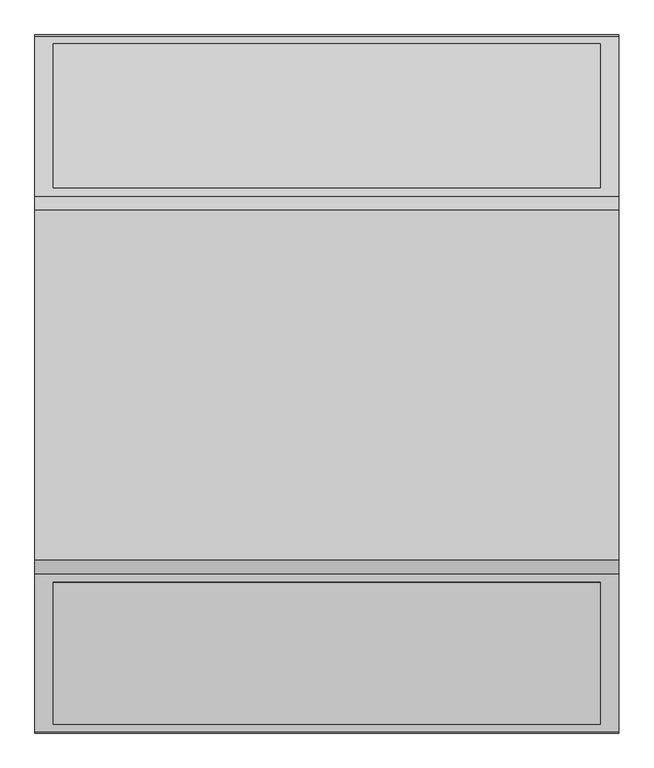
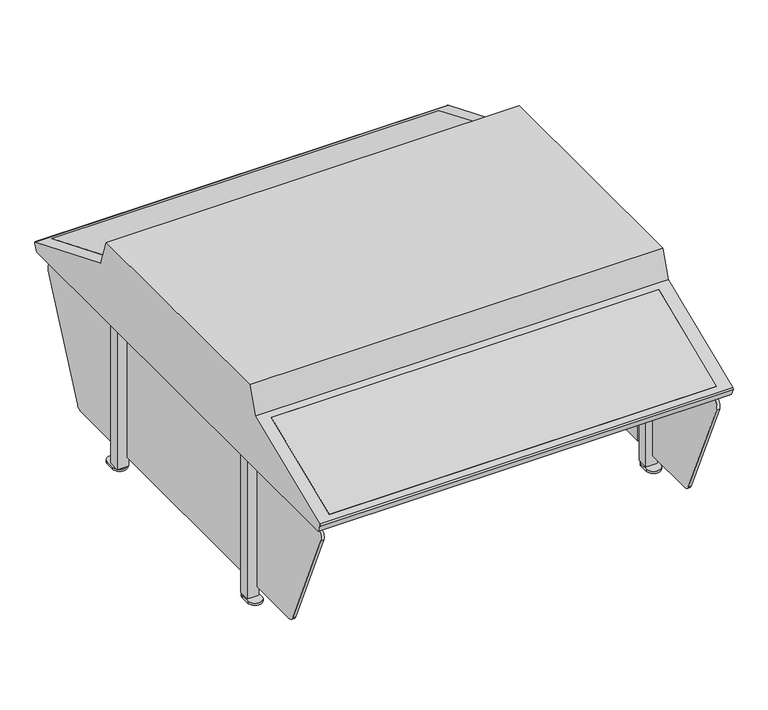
"""IFC4 building model written with IfcOpenShell, lengths in millimetres: proxy geometry, QF_AtlasMetal_OSDC_cat : QF_AtlasMetal_OSDC_cat."""

from ifc_helpers import new_model, si_unit, point, frame, frame_2d, origin, origin_with_axes, place, context, project, spatial, polyline, circle_curve, trimmed, segment, composite_curve, outline, extrude, source, transform, mapped, element, save
from ifc_brep_helpers import plane_surface, cylinder_surface, advanced_brep


def specialty_equipment_6575f109(model_context):
    return source(origin(), model_context, "Body", "SolidModel", [
        extrude(outline(composite_curve([segment(polyline([(-880.5035504, 314.325), (-652.4625, 314.325), (-652.4625, 38.1), (-772.9345504, 38.1)]), True, "CONTINUOUS"), segment(trimmed(circle_curve(frame_2d((-772.9345504, 53.975)), 15.875), [point((-772.9345504, 38.1))], [point((-787.4651765, 47.5815245))], False, "CARTESIAN"), True, "CONTINUOUS"), segment(polyline([(-787.4651765, 47.5815245), (-895.0341765, 292.0565245)]), True, "CONTINUOUS"), segment(trimmed(circle_curve(frame_2d((-880.5035504, 298.45)), 15.875), [point((-895.0341765, 292.0565245))], [point((-880.5035504, 314.325))], False, "CARTESIAN"), True, "CONTINUOUS")], self_intersect=False)), frame((490.4555745, 0.0, 0.0), z_axis=(1.0, 0.0, 0.0), x_axis=(0.0, 1.0, 0.0)), (0.0, 0.0, 1.0), 6.35),
        extrude(outline(composite_curve([segment(trimmed(circle_curve(frame_2d((128.0275287, 298.45)), 15.875), [point((128.0275287, 314.325))], [point((142.488074, 291.8995608))], False, "CARTESIAN"), True, "CONTINUOUS"), segment(polyline([(142.488074, 291.8995608), (31.744074, 47.4245608)]), True, "CONTINUOUS"), segment(trimmed(circle_curve(frame_2d((17.2835287, 53.975)), 15.875), [point((31.744074, 47.4245608))], [point((17.2835287, 38.1))], False, "CARTESIAN"), True, "CONTINUOUS"), segment(polyline([(17.2835287, 38.1), (-100.0125, 38.1), (-100.0125, 314.325), (128.0275287, 314.325)]), True, "CONTINUOUS")], self_intersect=False)), frame((490.4555745, 0.0, 0.0), z_axis=(1.0, 0.0, 0.0), x_axis=(0.0, 1.0, 0.0)), (0.0, 0.0, 1.0), 6.35),
        extrude(outline(composite_curve([segment(polyline([(-652.4625, 38.1), (-772.9345504, 38.1)]), True, "CONTINUOUS"), segment(trimmed(circle_curve(frame_2d((-772.9345504, 53.975)), 15.875), [point((-772.9345504, 38.1))], [point((-787.4651765, 47.5815245))], False, "CARTESIAN"), True, "CONTINUOUS"), segment(polyline([(-787.4651765, 47.5815245), (-895.0341765, 292.0565245)]), True, "CONTINUOUS"), segment(trimmed(circle_curve(frame_2d((-880.5035504, 298.45)), 15.875), [point((-895.0341765, 292.0565245))], [point((-880.5035504, 314.325))], False, "CARTESIAN"), True, "CONTINUOUS"), segment(polyline([(-880.5035504, 314.325), (-652.4625, 314.325), (-652.4625, 38.1)]), True, "CONTINUOUS")], self_intersect=False)), frame((-379.4944255, 0.0, 0.0), z_axis=(1.0, 0.0, 0.0), x_axis=(0.0, 1.0, 0.0)), (0.0, 0.0, 1.0), 6.35),
        extrude(outline(composite_curve([segment(polyline([(-100.0125, 38.1), (-100.0125, 314.325), (128.0275287, 314.325)]), True, "CONTINUOUS"), segment(trimmed(circle_curve(frame_2d((128.0275287, 298.45)), 15.875), [point((128.0275287, 314.325))], [point((142.488074, 291.8995608))], False, "CARTESIAN"), True, "CONTINUOUS"), segment(polyline([(142.488074, 291.8995608), (31.744074, 47.4245608)]), True, "CONTINUOUS"), segment(trimmed(circle_curve(frame_2d((17.2835287, 53.975)), 15.875), [point((31.744074, 47.4245608))], [point((17.2835287, 38.1))], False, "CARTESIAN"), True, "CONTINUOUS"), segment(polyline([(17.2835287, 38.1), (-100.0125, 38.1)]), True, "CONTINUOUS")], self_intersect=False)), frame((-379.4944255, 0.0, 0.0), z_axis=(1.0, 0.0, 0.0), x_axis=(0.0, 1.0, 0.0)), (0.0, 0.0, 1.0), 6.35),
        extrude(outline(polyline([(496.8055745, -157.1625), (496.8055745, -595.3125), (490.4555745, -595.3125), (490.4555745, -157.1625), (496.8055745, -157.1625)])), frame((0.0, 0.0, 38.1), z_axis=(0.0, 0.0, 1.0), x_axis=(1.0, 0.0, 0.0)), (0.0, 0.0, 1.0), 276.225),
        extrude(outline(polyline([(-373.1444255, -157.1625), (-373.1444255, -595.3125), (-379.4944255, -595.3125), (-379.4944255, -157.1625), (-373.1444255, -157.1625)])), frame((0.0, 0.0, 38.1), z_axis=(0.0, 0.0, 1.0), x_axis=(1.0, 0.0, 0.0)), (0.0, 0.0, 1.0), 276.225),
        extrude(outline(polyline([(0.0, -239.1278346), (0.0, 0.0), (850.9, 0.0), (850.9, -239.1278346), (0.0, -239.1278346)])), frame((484.1055745, -900.6055322, 343.6355938), z_axis=(0.0, -0.383537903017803, 0.9235251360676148), x_axis=(-1.0, 0.0, 0.0)), (0.0, 0.0, 1.0), 12.7),
        extrude(outline(polyline([(0.0, -242.5657486), (0.0, 0.0), (850.9, 0.0), (850.9, -242.5657486), (0.0, -242.5657486)])), frame((484.1055745, -75.8850338, 436.6687524), z_axis=(0.0, 0.38353790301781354, 0.9235251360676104), x_axis=(-1.0, 0.0, 0.0)), (0.0, 0.0, 1.0), 12.7),
        advanced_brep(
        [(512.6805745, 159.3423057, 330.2), (512.6805745, 166.4186252, 346.2825443), (512.6805745, 164.7302328, 350.4934317), (512.6805745, -84.0580207, 452.4960611), (512.6805745, -104.9655, 512.7625), (512.6805745, -650.6845, 512.7625), (512.6805745, -671.5919793, 452.4960611), (512.6805745, -917.2052328, 350.4934317), (512.6805745, -918.8936252, 346.2825443), (512.6805745, -911.8173057, 330.2), (-395.3694255, -911.8173057, 330.2), (-395.3694255, -918.8936252, 346.2825443), (-395.3694255, -917.2052328, 350.4934317), (-395.3694255, -671.5919793, 452.4960611), (-395.3694255, -650.6845, 512.7625), (-395.3694255, -104.9655, 512.7625), (-395.3694255, -84.0580207, 452.4960611), (-395.3694255, 164.7302328, 350.4934317), (-395.3694255, 166.4186252, 346.2825443), (-395.3694255, 159.3423057, 330.2), (484.1055745, 142.5507605, 330.2), (-366.7944255, 142.5507605, 330.2), (-366.7944255, -895.0257605, 330.2), (484.1055745, -895.0257605, 330.2), (484.1055745, -684.6358976, 447.0789513), (484.1055745, -905.4764636, 355.3643631), (-366.7944255, -905.4764636, 355.3643631), (-366.7944255, -684.6358976, 447.0789513), (484.1055745, -679.7649662, 435.3501821), (484.1055745, -661.4604519, 442.9520056), (484.1055745, -641.6478248, 500.0625), (484.1055745, -110.4461752, 500.0625), (484.1055745, -94.1496099, 444.2539896), (484.1055745, -74.5631971, 436.1197966), (484.1055745, -71.0141024, 445.1097561), (484.1055745, 62.9674129, 392.2159611), (484.1055745, 152.5360472, 355.4930206), (-366.7944255, 152.5360472, 355.4930206), (-366.7944255, 62.9674129, 392.2159611), (-366.7944255, -71.0141024, 445.1097561), (-366.7944255, -74.5631971, 436.1197966), (-366.7944255, -94.1496099, 444.2539896), (-366.7944255, -110.4461752, 500.0625), (-366.7944255, -641.6478248, 500.0625), (-366.7944255, -661.4604519, 442.9520056), (-366.7944255, -679.7649662, 435.3501821)],
        [
            (0, 1),
            (1, 2, circle_curve(frame((512.6805745, 163.5125, 347.5612394), z_axis=(1.0, 0.0, 0.0), x_axis=(0.0, 1.0, 0.0)), 3.175)),
            (2, 3),
            (3, 4),
            (4, 5),
            (5, 6),
            (6, 7),
            (7, 8, circle_curve(frame((512.6805745, -915.9875, 347.5612394), z_axis=(1.0, 0.0, 0.0), x_axis=(0.0, 1.0, 0.0)), 3.175)),
            (8, 9),
            (9, 0),
            (10, 11),
            (11, 12, circle_curve(frame((-395.3694255, -915.9875, 347.5612394), z_axis=(-1.0, 0.0, 0.0), x_axis=(0.0, 1.0, 0.0)), 3.175)),
            (12, 13),
            (13, 14),
            (14, 15),
            (15, 16),
            (16, 17),
            (17, 18, circle_curve(frame((-395.3694255, 163.5125, 347.5612394), z_axis=(-1.0, 0.0, 0.0), x_axis=(0.0, 1.0, 0.0)), 3.175)),
            (18, 19),
            (19, 10),
            (19, 0),
            (9, 10),
            (20, 21),
            (21, 22),
            (22, 23),
            (23, 20),
            (4, 15),
            (14, 5),
            (13, 6),
            (12, 7),
            (24, 25),
            (25, 26),
            (26, 27),
            (27, 24),
            (11, 8),
            (24, 28),
            (28, 29),
            (29, 30),
            (30, 31),
            (31, 32),
            (32, 33),
            (33, 34),
            (34, 35),
            (35, 36),
            (36, 20),
            (23, 25),
            (21, 37),
            (37, 38),
            (38, 39),
            (39, 40),
            (40, 41),
            (41, 42),
            (42, 43),
            (43, 44),
            (44, 45),
            (45, 27),
            (26, 22),
            (45, 28),
            (18, 1),
            (17, 2),
            (16, 3),
            (35, 38),
            (37, 36),
            (34, 39),
            (33, 40),
            (44, 29),
            (43, 30),
            (42, 31),
            (41, 32),
        ],
        [
            plane_surface(frame((512.6805745, -52.3875, 330.2), z_axis=(1.0, 0.0, 0.0), x_axis=(0.0, 1.0, 0.0))),
            plane_surface(frame((-395.3694255, -52.3875, 330.2), z_axis=(-1.0, 0.0, 0.0), x_axis=(0.0, -1.0, 0.0))),
            plane_surface(frame((512.6805745, -911.8173057, 330.2), z_axis=(0.0, 0.0, -1.0), x_axis=(-1.0, 0.0, 0.0))),
            plane_surface(frame((512.6805745, -104.9655, 512.7625), z_axis=(0.0, 0.0, 1.0), x_axis=(-1.0, 0.0, 0.0))),
            plane_surface(frame((512.6805745, -650.6845, 512.7625), z_axis=(0.0, -0.9447628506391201, 0.3277547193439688), x_axis=(-1.0, 0.0, 0.0))),
            plane_surface(frame((512.6805745, -671.5919793, 452.4960611), z_axis=(0.0, -0.3835379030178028, 0.9235251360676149), x_axis=(-1.0, 0.0, 0.0))),
            cylinder_surface(frame((-395.3694255, -915.9875, 347.5612394), z_axis=(1.0, 0.0, 0.0), x_axis=(0.0, 1.0, 0.0)), 3.175),
            plane_surface(frame((512.6805745, -918.8936252, 346.2825443), z_axis=(0.0, -0.9153150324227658, -0.40273861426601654), x_axis=(-1.0, 0.0, 0.0))),
            plane_surface(frame((484.1055745, -905.4764636, 355.3643631), z_axis=(-1.0000000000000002, 0.0, 0.0), x_axis=(0.0, 0.38353790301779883, -0.9235251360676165))),
            plane_surface(frame((-366.7944255, -905.4764636, 355.3643631), z_axis=(1.0000000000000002, 0.0, 0.0), x_axis=(0.0, -0.38353790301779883, 0.9235251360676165))),
            plane_surface(frame((484.1055745, -636.0963331, 330.2), z_axis=(0.0, -0.9235251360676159, -0.38353790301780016), x_axis=(-1.0, 0.0, 0.0))),
            plane_surface(frame((512.6805745, 159.3423057, 330.2), z_axis=(0.0, 0.9153150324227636, -0.40273861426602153), x_axis=(-1.0, 0.0, 0.0))),
            cylinder_surface(frame((-395.3694255, 163.5125, 347.5612394), z_axis=(1.0, 0.0, 0.0), x_axis=(0.0, 1.0, 0.0)), 3.175),
            plane_surface(frame((512.6805745, 164.7302328, 350.4934317), z_axis=(0.0, 0.3793515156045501, 0.9252526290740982), x_axis=(-1.0, 0.0, 0.0))),
            plane_surface(frame((512.6805745, -84.0580207, 452.4960611), z_axis=(0.0, 0.9447628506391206, 0.3277547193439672), x_axis=(-1.0, 0.0, 0.0))),
            plane_surface(frame((484.1055745, 153.0014636, 356.6719338), z_axis=(0.0, -0.36720470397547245, -0.9301401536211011), x_axis=(-1.0, 0.0, 0.0))),
            plane_surface(frame((484.1055745, -71.0141024, 445.1097561), z_axis=(0.0, 0.9301401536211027, -0.36720470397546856), x_axis=(-1.0, 0.0, 0.0))),
            plane_surface(frame((512.6805745, -895.0257605, 330.2), z_axis=(0.0, 0.9235251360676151, 0.3835379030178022), x_axis=(-1.0, 0.0, 0.0))),
            plane_surface(frame((512.6805745, -900.6055322, 343.6355938), z_axis=(0.0, 0.3835379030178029, -0.9235251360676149), x_axis=(-1.0, 0.0, 0.0))),
            plane_surface(frame((512.6805745, -661.4604519, 442.9520056), z_axis=(0.0, 0.94476285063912, -0.32775471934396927), x_axis=(-1.0, 0.0, 0.0))),
            plane_surface(frame((512.6805745, -641.6478248, 500.0625), z_axis=(0.0, 0.0, -1.0), x_axis=(-1.0, 0.0, 0.0))),
            plane_surface(frame((512.6805745, -110.4461752, 500.0625), z_axis=(0.0, -0.9599117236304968, -0.2803024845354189), x_axis=(-1.0, 0.0, 0.0))),
            plane_surface(frame((512.6805745, -94.1496099, 444.2539896), z_axis=(0.0, -0.3835379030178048, -0.9235251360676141), x_axis=(-1.0, 0.0, 0.0))),
            plane_surface(frame((512.6805745, 147.8937438, 343.7339316), z_axis=(0.0, -0.9301401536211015, 0.36720470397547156), x_axis=(-1.0, 0.0, 0.0))),
        ],
        [
            (0, [[1, 2, 3, 4, 5, 6, 7, 8, 9, 10]]),
            (1, [[11, 12, 13, 14, 15, 16, 17, 18, 19, 20]]),
            (2, [[-20, 21, -10, 22], [23, 24, 25, 26]]),
            (3, [[-5, 27, -15, 28]]),
            (4, [[-6, -28, -14, 29]]),
            (5, [[-7, -29, -13, 30], [31, 32, 33, 34]]),
            (6, [[-8, -30, -12, 35]]),
            (7, [[-9, -35, -11, -22]]),
            (8, [[36, 37, 38, 39, 40, 41, 42, 43, 44, 45, -26, 46, -31]]),
            (9, [[-24, 47, 48, 49, 50, 51, 52, 53, 54, 55, 56, -33, 57]]),
            (10, [[-36, -34, -56, 58]]),
            (11, [[-1, -21, -19, 59]]),
            (12, [[-2, -59, -18, 60]]),
            (13, [[-3, -60, -17, 61], [-44, 62, -48, 63]]),
            (14, [[-4, -61, -16, -27]]),
            (15, [[64, -49, -62, -43]]),
            (16, [[-64, -42, 65, -50]]),
            (17, [[-57, -32, -46, -25]]),
            (18, [[-58, -55, 66, -37]]),
            (19, [[-38, -66, -54, 67]]),
            (20, [[-39, -67, -53, 68]]),
            (21, [[-40, -68, -52, 69]]),
            (22, [[-65, -41, -69, -51]]),
            (23, [[-47, -23, -45, -63]]),
        ],
    ),
        extrude(outline(polyline([(-366.7944255, -141.2875), (-392.1944255, -141.2875), (-392.1944255, -115.8875), (-366.7944255, -115.8875), (-366.7944255, -141.2875)])), frame((0.0, 0.0, 4.7625), z_axis=(0.0, 0.0, 1.0), x_axis=(1.0, 0.0, 0.0)), (0.0, 0.0, 1.0), 325.4375),
        extrude(outline(polyline([(-366.7944255, -611.1875), (-366.7944255, -636.5875), (-392.1944255, -636.5875), (-392.1944255, -611.1875), (-366.7944255, -611.1875)])), frame((0.0, 0.0, 4.7625), z_axis=(0.0, 0.0, 1.0), x_axis=(1.0, 0.0, 0.0)), (0.0, 0.0, 1.0), 325.4375),
        extrude(outline(polyline([(484.1055745, -141.2875), (484.1055745, -115.8875), (509.5055745, -115.8875), (509.5055745, -141.2875), (484.1055745, -141.2875)])), frame((0.0, 0.0, 4.7625), z_axis=(0.0, 0.0, 1.0), x_axis=(1.0, 0.0, 0.0)), (0.0, 0.0, 1.0), 325.4375),
        extrude(outline(polyline([(509.5055745, -611.1875), (509.5055745, -636.5875), (484.1055745, -636.5875), (484.1055745, -611.1875), (509.5055745, -611.1875)])), frame((0.0, 0.0, 4.7625), z_axis=(0.0, 0.0, 1.0), x_axis=(1.0, 0.0, 0.0)), (0.0, 0.0, 1.0), 325.4375),
        extrude(outline(composite_curve([segment(trimmed(circle_curve(frame_2d((-379.4944255, -109.5375)), 15.875), [point((-395.3694255, -109.5375))], [point((-363.6194255, -109.5375))], False, "CARTESIAN"), True, "CONTINUOUS"), segment(polyline([(-363.6194255, -109.5375), (-363.6194255, -128.5875)]), True, "CONTINUOUS"), segment(trimmed(circle_curve(frame_2d((-379.4944255, -128.5875)), 15.875), [point((-363.6194255, -128.5875))], [point((-395.3694255, -128.5875))], False, "CARTESIAN"), True, "CONTINUOUS"), segment(polyline([(-395.3694255, -128.5875), (-395.3694255, -109.5375)]), True, "CONTINUOUS")], self_intersect=False)), origin_with_axes(), (0.0, 0.0, 1.0), 4.7625),
        extrude(outline(composite_curve([segment(trimmed(circle_curve(frame_2d((496.8055745, -109.5375)), 15.875), [point((480.9305745, -109.5375))], [point((512.6805745, -109.5375))], False, "CARTESIAN"), True, "CONTINUOUS"), segment(polyline([(512.6805745, -109.5375), (512.6805745, -128.5875)]), True, "CONTINUOUS"), segment(trimmed(circle_curve(frame_2d((496.8055745, -128.5875)), 15.875), [point((512.6805745, -128.5875))], [point((480.9305745, -128.5875))], False, "CARTESIAN"), True, "CONTINUOUS"), segment(polyline([(480.9305745, -128.5875), (480.9305745, -109.5375)]), True, "CONTINUOUS")], self_intersect=False)), origin_with_axes(), (0.0, 0.0, 1.0), 4.7625),
        extrude(outline(composite_curve([segment(trimmed(circle_curve(frame_2d((-379.4944255, -623.8875)), 15.875), [point((-395.3694255, -623.8875))], [point((-363.6194255, -623.8875))], False, "CARTESIAN"), True, "CONTINUOUS"), segment(polyline([(-363.6194255, -623.8875), (-363.6194255, -642.9375)]), True, "CONTINUOUS"), segment(trimmed(circle_curve(frame_2d((-379.4944255, -642.9375)), 15.875), [point((-363.6194255, -642.9375))], [point((-395.3694255, -642.9375))], False, "CARTESIAN"), True, "CONTINUOUS"), segment(polyline([(-395.3694255, -642.9375), (-395.3694255, -623.8875)]), True, "CONTINUOUS")], self_intersect=False)), origin_with_axes(), (0.0, 0.0, 1.0), 4.7625),
        extrude(outline(composite_curve([segment(trimmed(circle_curve(frame_2d((496.8055745, -623.8875)), 15.875), [point((480.9305745, -623.8875))], [point((512.6805745, -623.8875))], False, "CARTESIAN"), True, "CONTINUOUS"), segment(polyline([(512.6805745, -623.8875), (512.6805745, -642.9375)]), True, "CONTINUOUS"), segment(trimmed(circle_curve(frame_2d((496.8055745, -642.9375)), 15.875), [point((512.6805745, -642.9375))], [point((480.9305745, -642.9375))], False, "CARTESIAN"), True, "CONTINUOUS"), segment(polyline([(480.9305745, -642.9375), (480.9305745, -623.8875)]), True, "CONTINUOUS")], self_intersect=False)), origin_with_axes(), (0.0, 0.0, 1.0), 4.7625),
    ])


if __name__ == "__main__":
    model = new_model("IFC4")
    model_context = context("Model", 3, world=origin())
    ifc_project = project(units=[si_unit("LENGTHUNIT", "METRE", prefix="MILLI")], contexts=[model_context])
    site = spatial("IfcSite", under=ifc_project)
    building = spatial("IfcBuilding", under=site)
    placement = place(None, origin())
    specialty_equipment_shape = specialty_equipment_6575f109(model_context)
    element("IfcBuildingElementProxy", 1, Name="QF_AtlasMetal_OSDC_cat : QF_AtlasMetal_OSDC_cat", ObjectType="QF_AtlasMetal_OSDC_cat : QF_AtlasMetal_OSDC_cat", at=placement, inside=building, context=model_context, shape_type="MappedRepresentation", body=[
        mapped(specialty_equipment_shape, transform((0.0, 0.0, 0.0), x_axis=(1.0, 0.0, 0.0), y_axis=(0.0, 1.0, 0.0), z_axis=(0.0, 0.0, 1.0))),
    ])
    save(model, "model.ifc")
